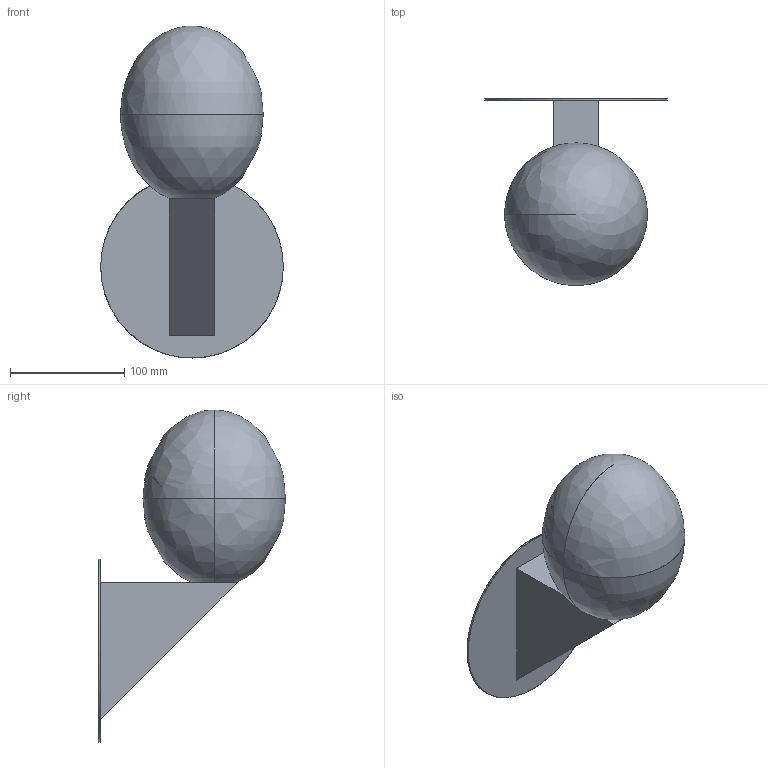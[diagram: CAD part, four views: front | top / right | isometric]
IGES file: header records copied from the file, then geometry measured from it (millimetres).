
Start section: Use this template file for building objects the size of a truck or smaller, and for objects which must be built to manufacturing tolerances. Units: Millimeters Absolute tolerance: .001 mm
Global section: file name: /Volumes/Company/WIP/Marlen/WFH/Website/SALES 3D/THE PHILOSOPHICAL EGG/WALL MOUNTED/MA_The Philosophical Egg Collection Wall Mounted_120V_2019.igs; preprocessor: Trout Lake IGES 012 Dec  4 2019; date: 201202.110404; units: millimetre
Bounding box: 160 x 163.98 x 290.86 mm (x, y, z)
Surface area: 117130.1 mm2 (no closed solid volume)
Topology: 0 solids, 0 shells, 9 faces, 42 edges, 38 vertices
Faces by surface type: bspline 9
